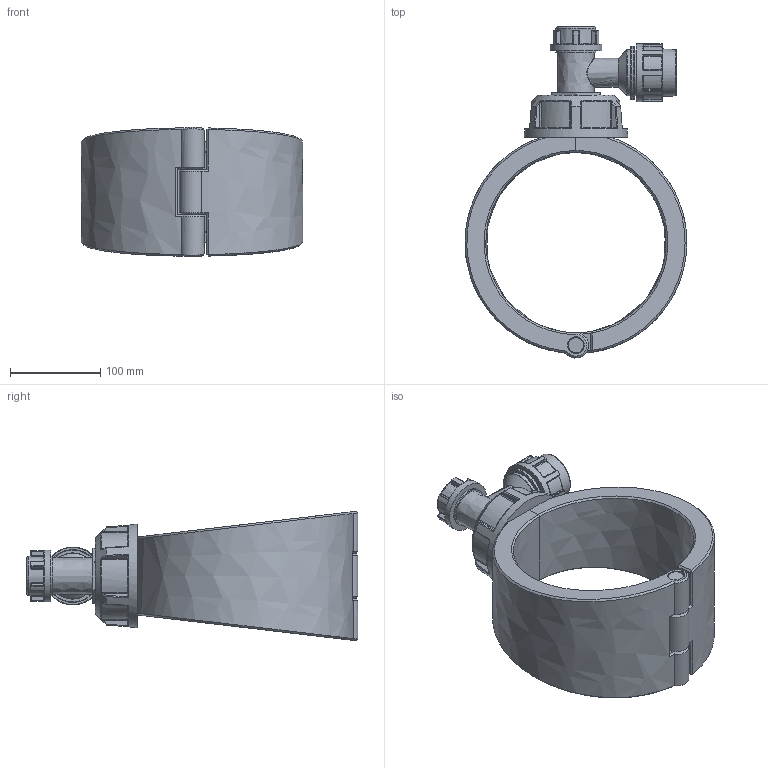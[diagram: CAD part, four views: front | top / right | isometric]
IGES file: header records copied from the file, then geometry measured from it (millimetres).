
Global section: file name: 163100200032; native system: Autodesk Inventor 2019; preprocessor: unknown; author: comp2; date: 20240828.104018; units: millimetre
Bounding box: 245.88 x 368 x 143.53 mm (x, y, z)
Volume: 2455222.6 mm3; surface area: 283201.8 mm2
Topology: 4 solids, 4 shells, 519 faces, 1253 edges, 754 vertices
Faces by surface type: bspline 519
